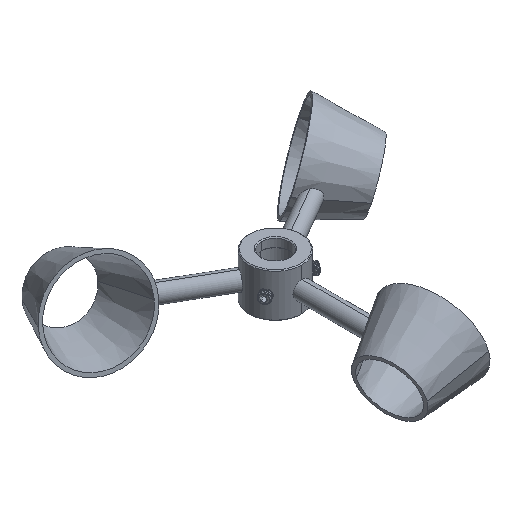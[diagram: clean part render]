
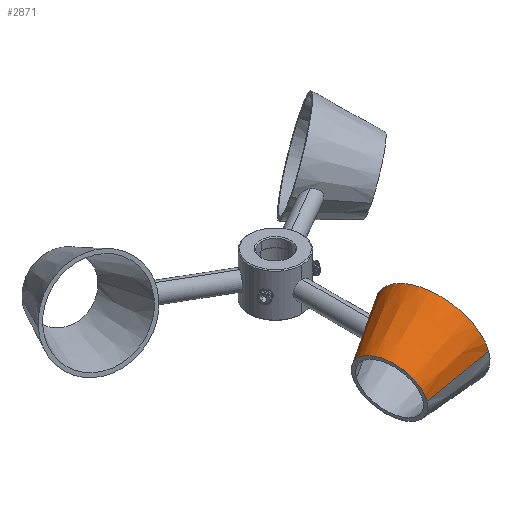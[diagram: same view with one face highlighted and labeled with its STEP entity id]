
A CAD part, isometric view. The second image highlights one B-rep face of the part: STEP entity #2871.
In plain terms, the highlighted conical face has half-angle 15.255 degrees and reference radius 27.073 mm.
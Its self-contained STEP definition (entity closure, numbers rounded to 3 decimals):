
#38 = VERTEX_POINT ( 'NONE', #312 ) ;
#39 = FACE_OUTER_BOUND ( 'NONE', #2495, .T. ) ;
#78 = VECTOR ( 'NONE', #1519, 1000. ) ;
#121 = DIRECTION ( 'NONE',  ( 0., 0., -1. ) ) ;
#248 = LINE ( 'NONE', #1432, #993 ) ;
#261 = DIRECTION ( 'NONE',  ( 0., -1., 0. ) ) ;
#312 = CARTESIAN_POINT ( 'NONE',  ( 0., 18.073, -33. ) ) ;
#620 = CONICAL_SURFACE ( 'NONE', #1620, 27.073, 0.266 ) ;
#865 = CARTESIAN_POINT ( 'NONE',  ( 0., -18.073, -33. ) ) ;
#993 = VECTOR ( 'NONE', #2639, 1000. ) ;
#1065 = CIRCLE ( 'NONE', #3456, 27.073 ) ;
#1221 = CARTESIAN_POINT ( 'NONE',  ( 0., 0., 0. ) ) ;
#1367 = EDGE_CURVE ( 'NONE', #3436, #38, #1687, .T. ) ;
#1432 = CARTESIAN_POINT ( 'NONE',  ( 0., -27.073, 0. ) ) ;
#1452 = ORIENTED_EDGE ( 'NONE', *, *, #1367, .F. ) ;
#1495 = CARTESIAN_POINT ( 'NONE',  ( 0., 27.073, 0. ) ) ;
#1519 = DIRECTION ( 'NONE',  ( 0., 0.263, 0.965 ) ) ;
#1533 = CARTESIAN_POINT ( 'NONE',  ( 0., 0., -33. ) ) ;
#1620 = AXIS2_PLACEMENT_3D ( 'NONE', #1221, #2706, #261 ) ;
#1687 = CIRCLE ( 'NONE', #3217, 18.073 ) ;
#1827 = EDGE_CURVE ( 'NONE', #3436, #3489, #248, .T. ) ;
#1830 = CARTESIAN_POINT ( 'NONE',  ( 0., 0., 0. ) ) ;
#2167 = EDGE_CURVE ( 'NONE', #38, #2896, #3633, .T. ) ;
#2220 = ORIENTED_EDGE ( 'NONE', *, *, #2167, .F. ) ;
#2413 = CARTESIAN_POINT ( 'NONE',  ( 0., 27.073, 0. ) ) ;
#2495 = EDGE_LOOP ( 'NONE', ( #2220, #1452, #3319, #2642 ) ) ;
#2639 = DIRECTION ( 'NONE',  ( 0., -0.263, 0.965 ) ) ;
#2642 = ORIENTED_EDGE ( 'NONE', *, *, #3656, .T. ) ;
#2706 = DIRECTION ( 'NONE',  ( 0., 0., 1. ) ) ;
#2748 = DIRECTION ( 'NONE',  ( 0., 1., 0. ) ) ;
#2871 = ADVANCED_FACE ( 'NONE', ( #39 ), #620, .T. ) ;
#2896 = VERTEX_POINT ( 'NONE', #1495 ) ;
#3050 = DIRECTION ( 'NONE',  ( 0., 0., -1. ) ) ;
#3217 = AXIS2_PLACEMENT_3D ( 'NONE', #1533, #121, #3669 ) ;
#3319 = ORIENTED_EDGE ( 'NONE', *, *, #1827, .T. ) ;
#3436 = VERTEX_POINT ( 'NONE', #865 ) ;
#3456 = AXIS2_PLACEMENT_3D ( 'NONE', #1830, #3050, #2748 ) ;
#3489 = VERTEX_POINT ( 'NONE', #3680 ) ;
#3633 = LINE ( 'NONE', #2413, #78 ) ;
#3656 = EDGE_CURVE ( 'NONE', #3489, #2896, #1065, .T. ) ;
#3669 = DIRECTION ( 'NONE',  ( 0., 1., 0. ) ) ;
#3680 = CARTESIAN_POINT ( 'NONE',  ( 0., -27.073, 0. ) ) ;
